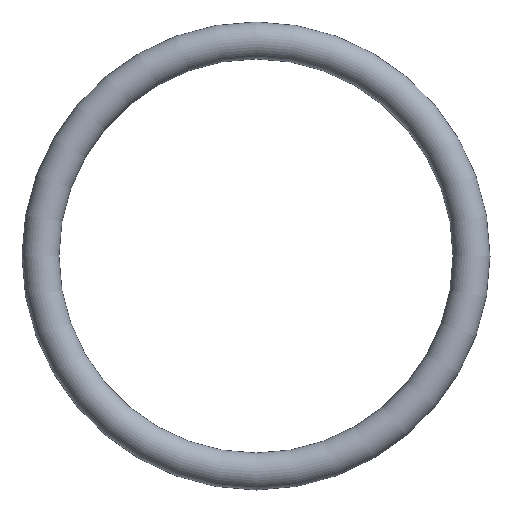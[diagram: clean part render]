
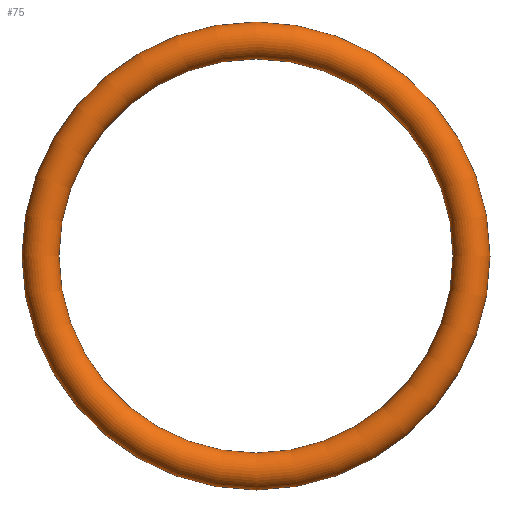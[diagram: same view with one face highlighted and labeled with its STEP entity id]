
A CAD part, front view. The second image highlights one B-rep face of the part: STEP entity #75.
In plain terms, the highlighted toroidal (fillet/blend) face has major radius 17.5 mm and minor radius 1.5 mm.
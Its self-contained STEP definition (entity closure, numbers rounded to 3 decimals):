
#75 = ADVANCED_FACE( '', ( #77 ), #78, .T. );
#77 = FACE_BOUND( '', #79, .T. );
#78 = TOROIDAL_SURFACE( '', #80, 17.5, 1.5 );
#79 = VERTEX_LOOP( '', #81 );
#80 = AXIS2_PLACEMENT_3D( '', #82, #83, #84 );
#81 = VERTEX_POINT( '', #85 );
#82 = CARTESIAN_POINT( '', ( 0., 0., 0. ) );
#83 = DIRECTION( '', ( 0., -1., 0. ) );
#84 = DIRECTION( '', ( 0., 0., -1. ) );
#85 = CARTESIAN_POINT( '', ( 0., 0., -19. ) );
